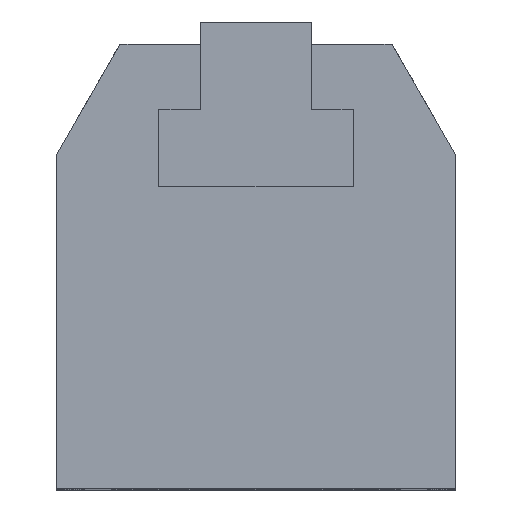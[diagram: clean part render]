
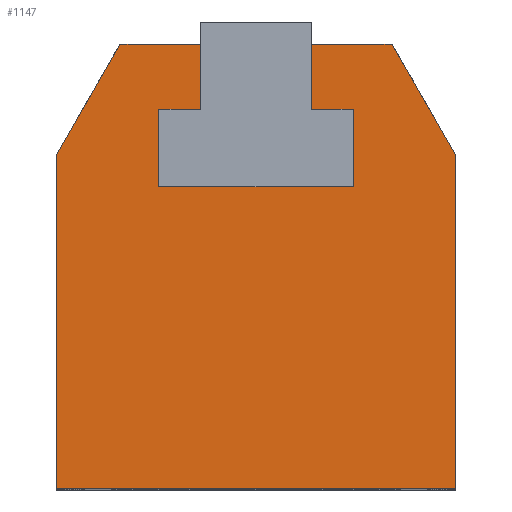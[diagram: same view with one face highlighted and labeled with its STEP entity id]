
A CAD part, top view. The second image highlights one B-rep face of the part: STEP entity #1147.
In plain terms, the highlighted planar face has unit normal (0, 0, 1).
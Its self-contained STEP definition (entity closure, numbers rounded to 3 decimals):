
#12 = VERTEX_POINT ( 'NONE', #5124 ) ;
#100 = EDGE_CURVE ( 'NONE', #4021, #6105, #5288, .T. ) ;
#214 = LINE ( 'NONE', #6055, #6050 ) ;
#216 = DIRECTION ( 'NONE',  ( -1., 0., 0. ) ) ;
#237 = PLANE ( 'NONE',  #5764 ) ;
#287 = LINE ( 'NONE', #2312, #540 ) ;
#288 = DIRECTION ( 'NONE',  ( -1., 0., 0. ) ) ;
#382 = VERTEX_POINT ( 'NONE', #3226 ) ;
#481 = LINE ( 'NONE', #2391, #976 ) ;
#540 = VECTOR ( 'NONE', #216, 1000. ) ;
#579 = VECTOR ( 'NONE', #6791, 1000. ) ;
#692 = ORIENTED_EDGE ( 'NONE', *, *, #6014, .T. ) ;
#717 = VERTEX_POINT ( 'NONE', #2465 ) ;
#751 = VERTEX_POINT ( 'NONE', #3018 ) ;
#773 = LINE ( 'NONE', #6649, #4396 ) ;
#776 = EDGE_CURVE ( 'NONE', #717, #2497, #481, .T. ) ;
#785 = EDGE_CURVE ( 'NONE', #2720, #3199, #5897, .T. ) ;
#874 = DIRECTION ( 'NONE',  ( -0.498, -0.867, 0. ) ) ;
#907 = ORIENTED_EDGE ( 'NONE', *, *, #1711, .T. ) ;
#976 = VECTOR ( 'NONE', #4613, 1000. ) ;
#1029 = CARTESIAN_POINT ( 'NONE',  ( -17.5, 68.3, 80. ) ) ;
#1049 = ORIENTED_EDGE ( 'NONE', *, *, #5550, .F. ) ;
#1074 = EDGE_CURVE ( 'NONE', #3072, #1330, #287, .T. ) ;
#1147 = ADVANCED_FACE ( 'NONE', ( #6904 ), #237, .T. ) ;
#1330 = VERTEX_POINT ( 'NONE', #1423 ) ;
#1357 = DIRECTION ( 'NONE',  ( 0., 1., 0. ) ) ;
#1423 = CARTESIAN_POINT ( 'NONE',  ( 10., 68.3, 80. ) ) ;
#1443 = VERTEX_POINT ( 'NONE', #5299 ) ;
#1448 = CARTESIAN_POINT ( 'NONE',  ( -17.5, 68.3, 80. ) ) ;
#1478 = DIRECTION ( 'NONE',  ( 1., 0., 0. ) ) ;
#1626 = CARTESIAN_POINT ( 'NONE',  ( 10., 80., 80. ) ) ;
#1711 = EDGE_CURVE ( 'NONE', #382, #3103, #773, .T. ) ;
#1736 = ORIENTED_EDGE ( 'NONE', *, *, #100, .F. ) ;
#1828 = CARTESIAN_POINT ( 'NONE',  ( -36., 60., 80. ) ) ;
#1866 = DIRECTION ( 'NONE',  ( 0., 0., 1. ) ) ;
#1899 = CARTESIAN_POINT ( 'NONE',  ( -17.5, 54.3, 80. ) ) ;
#2028 = LINE ( 'NONE', #4498, #3811 ) ;
#2100 = ORIENTED_EDGE ( 'NONE', *, *, #3496, .F. ) ;
#2286 = ORIENTED_EDGE ( 'NONE', *, *, #4174, .T. ) ;
#2312 = CARTESIAN_POINT ( 'NONE',  ( 17.5, 68.3, 80. ) ) ;
#2391 = CARTESIAN_POINT ( 'NONE',  ( 36., 0., 80. ) ) ;
#2431 = CARTESIAN_POINT ( 'NONE',  ( -17.5, 54.3, 80. ) ) ;
#2440 = ORIENTED_EDGE ( 'NONE', *, *, #776, .T. ) ;
#2441 = LINE ( 'NONE', #5839, #5162 ) ;
#2444 = VECTOR ( 'NONE', #2574, 1000. ) ;
#2461 = VERTEX_POINT ( 'NONE', #1029 ) ;
#2465 = CARTESIAN_POINT ( 'NONE',  ( 36., 0., 80. ) ) ;
#2497 = VERTEX_POINT ( 'NONE', #6512 ) ;
#2528 = LINE ( 'NONE', #3105, #2444 ) ;
#2548 = ORIENTED_EDGE ( 'NONE', *, *, #785, .T. ) ;
#2574 = DIRECTION ( 'NONE',  ( -0.498, 0.867, 0. ) ) ;
#2720 = VERTEX_POINT ( 'NONE', #4996 ) ;
#2909 = DIRECTION ( 'NONE',  ( -1., 0., 0. ) ) ;
#3018 = CARTESIAN_POINT ( 'NONE',  ( -36., 0., 80. ) ) ;
#3072 = VERTEX_POINT ( 'NONE', #4897 ) ;
#3103 = VERTEX_POINT ( 'NONE', #1626 ) ;
#3105 = CARTESIAN_POINT ( 'NONE',  ( 36., 60., 80. ) ) ;
#3137 = VECTOR ( 'NONE', #6244, 1000. ) ;
#3142 = VECTOR ( 'NONE', #1357, 1000. ) ;
#3199 = VERTEX_POINT ( 'NONE', #5562 ) ;
#3226 = CARTESIAN_POINT ( 'NONE',  ( 24.5, 80., 80. ) ) ;
#3343 = EDGE_CURVE ( 'NONE', #6105, #3072, #5783, .T. ) ;
#3496 = EDGE_CURVE ( 'NONE', #2461, #4021, #4152, .T. ) ;
#3746 = ORIENTED_EDGE ( 'NONE', *, *, #1074, .F. ) ;
#3811 = VECTOR ( 'NONE', #4424, 1000. ) ;
#3988 = EDGE_CURVE ( 'NONE', #1443, #2720, #6106, .T. ) ;
#3996 = CARTESIAN_POINT ( 'NONE',  ( 17.5, 54.3, 80. ) ) ;
#4021 = VERTEX_POINT ( 'NONE', #2431 ) ;
#4105 = CARTESIAN_POINT ( 'NONE',  ( -24.5, 80., 80. ) ) ;
#4152 = LINE ( 'NONE', #1448, #3137 ) ;
#4174 = EDGE_CURVE ( 'NONE', #751, #717, #2441, .T. ) ;
#4396 = VECTOR ( 'NONE', #2909, 1000. ) ;
#4424 = DIRECTION ( 'NONE',  ( -1., 0., 0. ) ) ;
#4498 = CARTESIAN_POINT ( 'NONE',  ( -10., 68.3, 80. ) ) ;
#4536 = ORIENTED_EDGE ( 'NONE', *, *, #4913, .T. ) ;
#4538 = CARTESIAN_POINT ( 'NONE',  ( 24.5, 80., 80. ) ) ;
#4611 = ORIENTED_EDGE ( 'NONE', *, *, #3343, .F. ) ;
#4613 = DIRECTION ( 'NONE',  ( 0., 1., 0. ) ) ;
#4693 = DIRECTION ( 'NONE',  ( 0., 1., 0. ) ) ;
#4853 = ORIENTED_EDGE ( 'NONE', *, *, #4960, .F. ) ;
#4897 = CARTESIAN_POINT ( 'NONE',  ( 17.5, 68.3, 80. ) ) ;
#4913 = EDGE_CURVE ( 'NONE', #3199, #751, #6691, .T. ) ;
#4957 = ORIENTED_EDGE ( 'NONE', *, *, #5639, .F. ) ;
#4960 = EDGE_CURVE ( 'NONE', #1330, #3103, #5570, .T. ) ;
#4961 = VECTOR ( 'NONE', #5177, 1000. ) ;
#4996 = CARTESIAN_POINT ( 'NONE',  ( -24.5, 80., 80. ) ) ;
#5124 = CARTESIAN_POINT ( 'NONE',  ( -10., 68.3, 80. ) ) ;
#5162 = VECTOR ( 'NONE', #1478, 1000. ) ;
#5177 = DIRECTION ( 'NONE',  ( 0., -1., 0. ) ) ;
#5288 = LINE ( 'NONE', #1899, #579 ) ;
#5299 = CARTESIAN_POINT ( 'NONE',  ( -10., 80., 80. ) ) ;
#5451 = DIRECTION ( 'NONE',  ( 0., -1., 0. ) ) ;
#5550 = EDGE_CURVE ( 'NONE', #1443, #12, #214, .T. ) ;
#5562 = CARTESIAN_POINT ( 'NONE',  ( -36., 60., 80. ) ) ;
#5570 = LINE ( 'NONE', #6255, #6875 ) ;
#5639 = EDGE_CURVE ( 'NONE', #12, #2461, #2028, .T. ) ;
#5647 = CARTESIAN_POINT ( 'NONE',  ( 0., 0., 80. ) ) ;
#5764 = AXIS2_PLACEMENT_3D ( 'NONE', #5647, #1866, #6198 ) ;
#5783 = LINE ( 'NONE', #3996, #3142 ) ;
#5839 = CARTESIAN_POINT ( 'NONE',  ( -36., 0., 80. ) ) ;
#5888 = CARTESIAN_POINT ( 'NONE',  ( 17.5, 54.3, 80. ) ) ;
#5897 = LINE ( 'NONE', #4105, #6064 ) ;
#6014 = EDGE_CURVE ( 'NONE', #2497, #382, #2528, .T. ) ;
#6050 = VECTOR ( 'NONE', #5451, 1000. ) ;
#6055 = CARTESIAN_POINT ( 'NONE',  ( -10., 0., 80. ) ) ;
#6064 = VECTOR ( 'NONE', #874, 1000. ) ;
#6105 = VERTEX_POINT ( 'NONE', #5888 ) ;
#6106 = LINE ( 'NONE', #4538, #6627 ) ;
#6125 = ORIENTED_EDGE ( 'NONE', *, *, #3988, .T. ) ;
#6198 = DIRECTION ( 'NONE',  ( 1., 0., 0. ) ) ;
#6244 = DIRECTION ( 'NONE',  ( 0., -1., 0. ) ) ;
#6255 = CARTESIAN_POINT ( 'NONE',  ( 10., 68.3, 80. ) ) ;
#6512 = CARTESIAN_POINT ( 'NONE',  ( 36., 60., 80. ) ) ;
#6627 = VECTOR ( 'NONE', #288, 1000. ) ;
#6649 = CARTESIAN_POINT ( 'NONE',  ( 24.5, 80., 80. ) ) ;
#6691 = LINE ( 'NONE', #1828, #4961 ) ;
#6735 = EDGE_LOOP ( 'NONE', ( #4853, #3746, #4611, #1736, #2100, #4957, #1049, #6125, #2548, #4536, #2286, #2440, #692, #907 ) ) ;
#6791 = DIRECTION ( 'NONE',  ( 1., 0., 0. ) ) ;
#6875 = VECTOR ( 'NONE', #4693, 1000. ) ;
#6904 = FACE_OUTER_BOUND ( 'NONE', #6735, .T. ) ;
